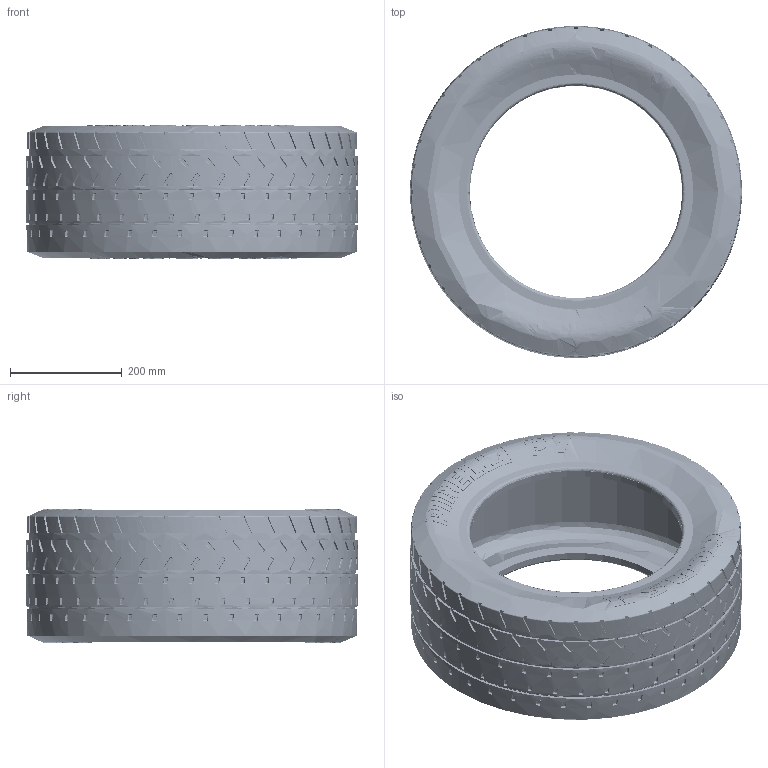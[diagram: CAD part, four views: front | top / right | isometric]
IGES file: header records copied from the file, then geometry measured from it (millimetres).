
Start section: SolidWorks IGES file using analytic representation for surfaces
Global section: file name: D:\Ïðîåêòè è ÷àñòè\Fiat 131 abarth gr4 cromodora wheels\Fiat 131 abarth gr4 cromodora wheels front tyre 234-45R15.IGS; native system: SolidWorks 2019; preprocessor: SolidWorks 2019; author: GOD; date: 250308.215300; units: millimetre
Bounding box: 595.4 x 595.4 x 240 mm (x, y, z)
Surface area: 1503239.9 mm2 (no closed solid volume)
Topology: 0 solids, 0 shells, 5732 faces, 58957 edges, 58477 vertices
Faces by surface type: bspline 4008, revolution 1724
